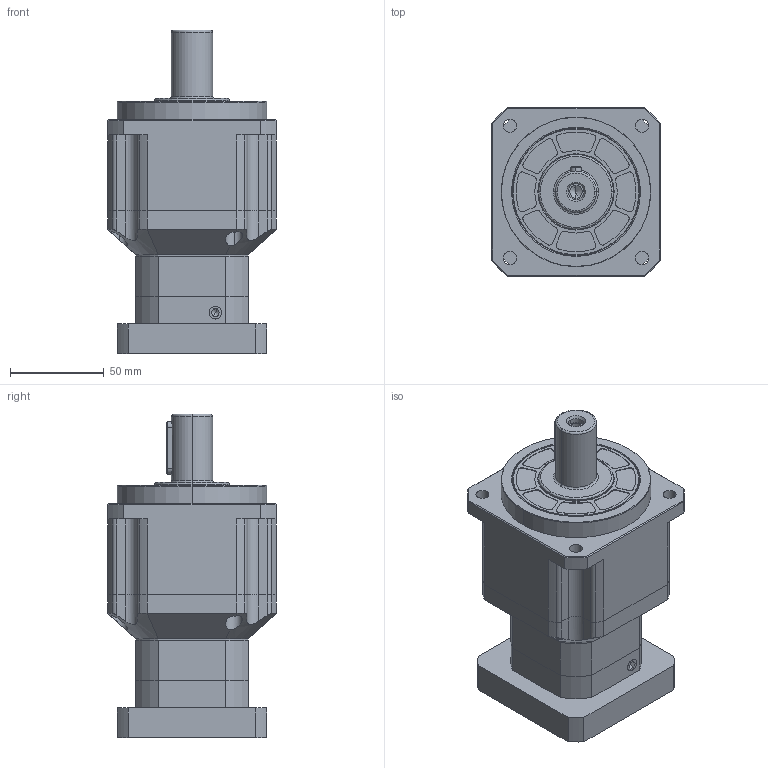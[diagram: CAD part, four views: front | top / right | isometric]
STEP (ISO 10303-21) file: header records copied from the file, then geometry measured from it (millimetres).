
FILE_DESCRIPTION (( 'STEP AP214' ), '1' );
FILE_NAME ('OB090L2-70-19-M5.STEP', '2020-08-12T06:32:42', ( '微软用户' ), ( '微软中国' ), 'SwSTEP 2.0', 'SolidWorks 2014', '' );
FILE_SCHEMA (( 'AUTOMOTIVE_DESIGN' ));
Length unit declared in the file: millimetre
Products named in the file (126): 俴陎謫菜え10.4X22; Spring lock washers--Normal type GB_GB_FASTENER_WASHER_SW 4; Deep groove ball bearings GB_Rolling bearings 61808 GB 276-94; 俴陎謫菜え7; Plain parallel keys_GB_CONNECTING_PIECE_KEYS_CSK C4X12; Spring lock washers--Normal type GB_GB_FASTENER_WASHER_SW 5; 俴陎粣10.347; Hexagon socket head cap screws GB_GB_FASTENER_SCREWS_HSHCS M4X20-N; Hexagon socket head cap screws GB_GB_FASTENER_SCREWS_HSHCS M5X20-N; 俴陎粣5X21; Hexagon socket countersunk head screws GB_GB_FASTENER_SCREWS_HSCHS M3X8-N; 高速级内齿圈Z81; 詢厒怮栠謫i6; Hexagon socket head cap screws GB_GB_FASTENER_SCREWS_HSHCS M5X16-N; 幗渀粣創10.347X15.347; Hexagon socket head cap screws GB_GB_FSTENER_SCREWS_HSHCS M4X20-N; Deep groove ball bearings GB_Rolling bearings 61905 GB 276-94; Circlips for hole--Type B GB_GB_CONNECTING_PIECE_RINGS_CHB 42; 怮栠謫5A; 60K70萇儂楊擘; 俴陎謫5A; 高速级输入端盖; Circlips for shaft--Type A large GB_GB_CONNECTING_PIECE_RING_RRA 25; 粣創揤啣; Hex socket set screws with flat point GB_GB_FATENER_SCREWS_HSFP M8X10-N; 俴陎殤6; 薊粣ん19K10; Plain parallel keys_GB_CONNECTING_PIECE_KEYS_CSK C2X12; 幗渀粣創7X10X8; Plain parallel keys_GB_CONNECTING_PIECE_KEYS_CSK 6X28; 詢厒俴陎謫i6; 蚐猾45X68X8; Deep groove ball bearings GB_Rolling bearings 6008 GB 276-94; Deep groove ball bearings GB_Rolling bearings 61812 GB 276-94; 怀堤粣5A; 囀喘謫Z84; OB090L2-70-19-M5; Circlips for hole--Type B GB_GB_CONNECTING_PIECE_RINGS_CHB 68
Assembly tree (88 placements, depth 2):
  俴陎謫菜え10.4X22
  Spring lock washers--Normal type GB_GB_FASTENER_WASHER_SW 4
  俴陎謫菜え7
  Spring lock washers--Normal type GB_GB_FASTENER_WASHER_SW 5
  俴陎粣10.347
Bounding box: 90 x 90 x 173 mm (x, y, z)
Volume: 632618.2 mm3; surface area: 251948.8 mm2
Topology: 88 solids, 88 shells, 2748 faces, 8706 edges, 5323 vertices
Faces by surface type: cylinder 858, bspline 811, plane 733, cone 307, torus 39
Entity records: 97622 total; most frequent: CARTESIAN_POINT 42159, ORIENTED_EDGE 12828, DIRECTION 9554, EDGE_CURVE 6414, VERTEX_POINT 4288, AXIS2_PLACEMENT_3D 4101, CIRCLE 2759, EDGE_LOOP 2258
